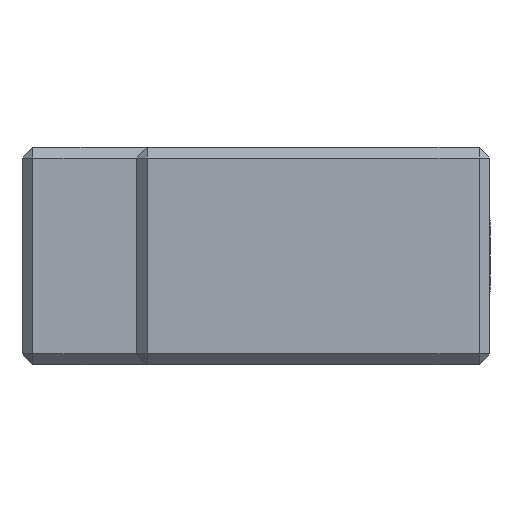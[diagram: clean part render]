
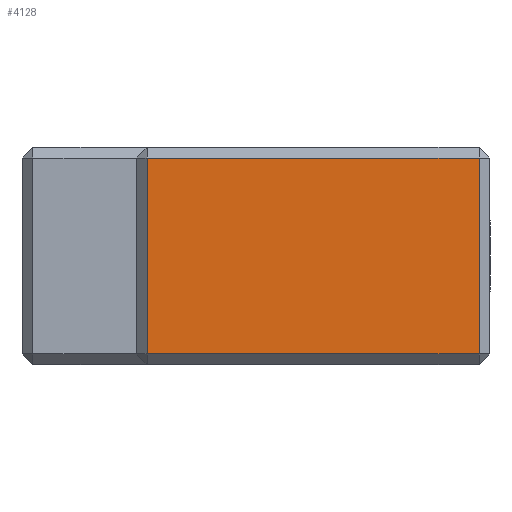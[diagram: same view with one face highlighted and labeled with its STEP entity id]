
A CAD part, left-side view. The second image highlights one B-rep face of the part: STEP entity #4128.
In plain terms, the highlighted planar face has unit normal (-1, 0, 0).
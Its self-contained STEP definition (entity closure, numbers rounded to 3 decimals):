
#78 = EDGE_CURVE ( 'NONE', #755, #5042, #7192, .T. ) ;
#218 = LINE ( 'NONE', #5328, #3857 ) ;
#330 = CARTESIAN_POINT ( 'NONE',  ( -30., 1., -9. ) ) ;
#563 = ORIENTED_EDGE ( 'NONE', *, *, #6792, .F. ) ;
#755 = VERTEX_POINT ( 'NONE', #3876 ) ;
#769 = CARTESIAN_POINT ( 'NONE',  ( -30., 1., 9. ) ) ;
#897 = LINE ( 'NONE', #330, #1735 ) ;
#1049 = FACE_OUTER_BOUND ( 'NONE', #4481, .T. ) ;
#1509 = DIRECTION ( 'NONE',  ( 0., -1., 0. ) ) ;
#1696 = EDGE_CURVE ( 'NONE', #3471, #5886, #3670, .T. ) ;
#1735 = VECTOR ( 'NONE', #7051, 1000. ) ;
#1840 = CARTESIAN_POINT ( 'NONE',  ( -30., 31.5, 9. ) ) ;
#1953 = ORIENTED_EDGE ( 'NONE', *, *, #2456, .F. ) ;
#2122 = VECTOR ( 'NONE', #5996, 1000. ) ;
#2423 = VECTOR ( 'NONE', #4196, 1000. ) ;
#2456 = EDGE_CURVE ( 'NONE', #5886, #755, #897, .T. ) ;
#2909 = CARTESIAN_POINT ( 'NONE',  ( -30., 1., -9. ) ) ;
#3471 = VERTEX_POINT ( 'NONE', #769 ) ;
#3557 = DIRECTION ( 'NONE',  ( 1., 0., 0. ) ) ;
#3670 = LINE ( 'NONE', #5549, #2423 ) ;
#3796 = CARTESIAN_POINT ( 'NONE',  ( -30., 1., -9. ) ) ;
#3857 = VECTOR ( 'NONE', #1509, 1000. ) ;
#3876 = CARTESIAN_POINT ( 'NONE',  ( -30., 31.5, -9. ) ) ;
#4128 = ADVANCED_FACE ( 'NONE', ( #1049 ), #5201, .F. ) ;
#4196 = DIRECTION ( 'NONE',  ( 0., 0., -1. ) ) ;
#4481 = EDGE_LOOP ( 'NONE', ( #7646, #563, #7067, #1953 ) ) ;
#4720 = CARTESIAN_POINT ( 'NONE',  ( -30., 31.5, -9. ) ) ;
#5042 = VERTEX_POINT ( 'NONE', #1840 ) ;
#5201 = PLANE ( 'NONE',  #5428 ) ;
#5328 = CARTESIAN_POINT ( 'NONE',  ( -30., 31.5, 9. ) ) ;
#5428 = AXIS2_PLACEMENT_3D ( 'NONE', #2909, #3557, #6046 ) ;
#5549 = CARTESIAN_POINT ( 'NONE',  ( -30., 1., 9. ) ) ;
#5886 = VERTEX_POINT ( 'NONE', #3796 ) ;
#5996 = DIRECTION ( 'NONE',  ( 0., 0., 1. ) ) ;
#6046 = DIRECTION ( 'NONE',  ( 0., 1., 0. ) ) ;
#6792 = EDGE_CURVE ( 'NONE', #5042, #3471, #218, .T. ) ;
#7051 = DIRECTION ( 'NONE',  ( 0., 1., 0. ) ) ;
#7067 = ORIENTED_EDGE ( 'NONE', *, *, #78, .F. ) ;
#7192 = LINE ( 'NONE', #4720, #2122 ) ;
#7646 = ORIENTED_EDGE ( 'NONE', *, *, #1696, .F. ) ;
